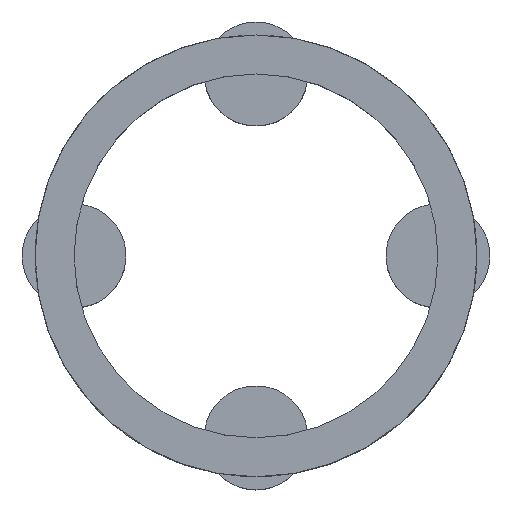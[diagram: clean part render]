
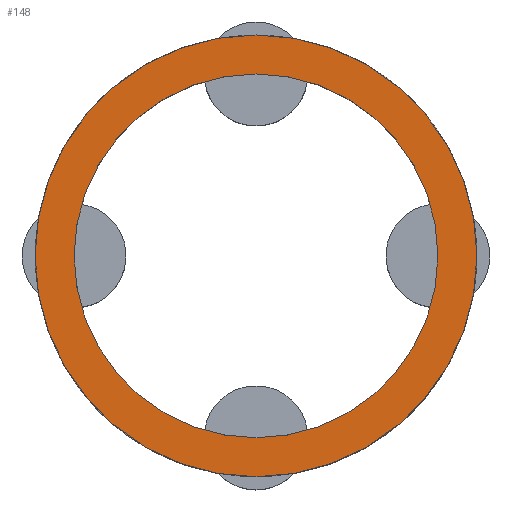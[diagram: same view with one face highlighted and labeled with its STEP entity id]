
A CAD part, top view. The second image highlights one B-rep face of the part: STEP entity #148.
In plain terms, the highlighted planar face has unit normal (0, 0, 1).
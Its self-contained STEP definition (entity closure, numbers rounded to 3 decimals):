
#103=PLANE('',#738);
#127=FACE_BOUND('',#245,.T.);
#128=FACE_BOUND('',#246,.T.);
#148=ADVANCED_FACE('',(#127,#128),#103,.T.);
#245=EDGE_LOOP('',(#375));
#246=EDGE_LOOP('',(#376));
#375=ORIENTED_EDGE('',*,*,#534,.F.);
#376=ORIENTED_EDGE('',*,*,#587,.T.);
#482=VERTEX_POINT('',#1040);
#527=VERTEX_POINT('',#1150);
#534=EDGE_CURVE('',#482,#482,#616,.T.);
#587=EDGE_CURVE('',#527,#527,#655,.T.);
#616=CIRCLE('',#686,7.);
#655=CIRCLE('',#737,8.5);
#686=AXIS2_PLACEMENT_3D('',#1039,#803,#804);
#737=AXIS2_PLACEMENT_3D('',#1149,#919,#920);
#738=AXIS2_PLACEMENT_3D('',#1151,#921,#922);
#803=DIRECTION('',(0.,0.,1.));
#804=DIRECTION('',(1.,0.,0.));
#919=DIRECTION('',(0.,0.,1.));
#920=DIRECTION('',(1.,0.,0.));
#921=DIRECTION('',(0.,0.,1.));
#922=DIRECTION('',(1.,0.,0.));
#1039=CARTESIAN_POINT('',(0.,0.,6.));
#1040=CARTESIAN_POINT('',(7.,0.,6.));
#1149=CARTESIAN_POINT('',(0.,0.,6.));
#1150=CARTESIAN_POINT('',(8.5,0.,6.));
#1151=CARTESIAN_POINT('',(0.,0.,6.));
